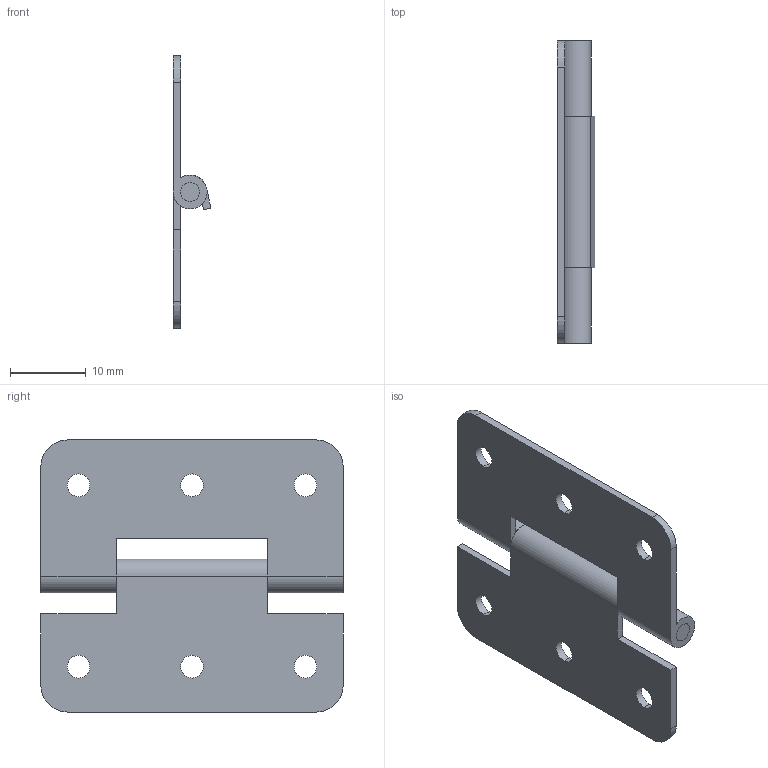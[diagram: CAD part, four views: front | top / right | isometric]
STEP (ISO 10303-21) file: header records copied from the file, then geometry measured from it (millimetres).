
FILE_DESCRIPTION (( 'STEP AP203' ), '1' );
FILE_NAME ('DEH-53-3.STEP', '2013-08-29T10:43:45', ( '中村　妙子' ), ( 'ＮＴ設計' ), 'SwSTEP 2.0', 'SolidWorks 2002296', '' );
FILE_SCHEMA (( 'CONFIG_CONTROL_DESIGN' ));
Length unit declared in the file: millimetre
Products named in the file (4): DEH-53-3; DEH-53-3-1_蹬怮椔; DEH-53-3-3_蹬怮椔; DEH-53-3-2_蹬怮椔
Assembly tree (3 placements, depth 2):
  DEH-53-3
    DEH-53-3-2_蹬怮椔
    DEH-53-3-1_蹬怮椔
    DEH-53-3-3_蹬怮椔
Bounding box: 5 x 40 x 36 mm (x, y, z)
Volume: 1733.1 mm3; surface area: 3695.4 mm2
Topology: 3 solids, 3 shells, 48 faces, 126 edges, 84 vertices
Faces by surface type: cylinder 26, plane 22
Entity records: 1948 total; most frequent: DIRECTION 286, CARTESIAN_POINT 264, ORIENTED_EDGE 252, EDGE_CURVE 126, AXIS2_PLACEMENT_3D 106, VERTEX_POINT 84, LINE 74, VECTOR 74
